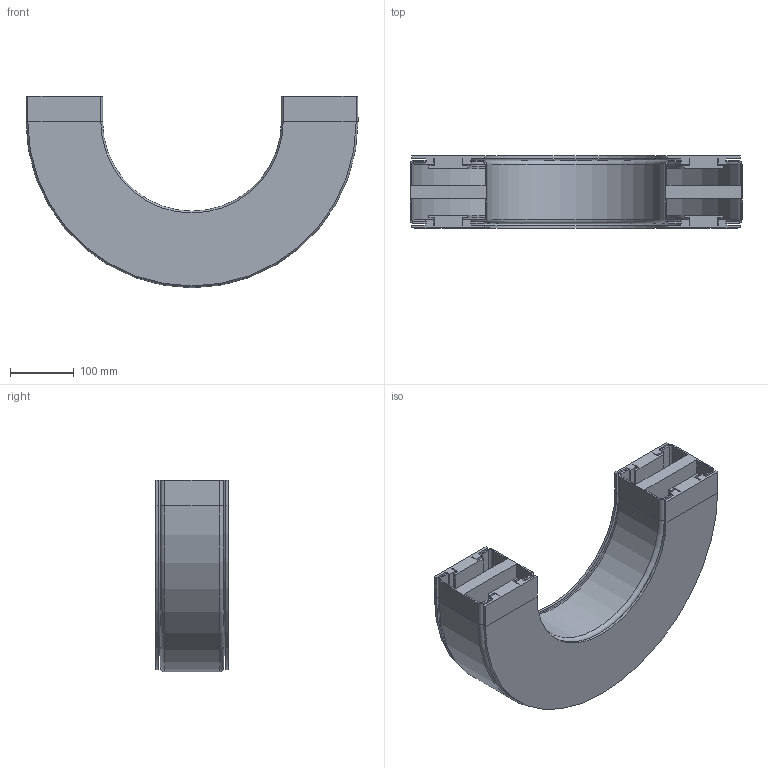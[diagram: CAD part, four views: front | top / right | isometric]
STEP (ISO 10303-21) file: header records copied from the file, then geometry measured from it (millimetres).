
FILE_DESCRIPTION (( 'STEP AP214' ), '1' );
FILE_NAME ('VC.120 Horizontale bochtsectie.R200 180.STEP', '2017-02-08T07:48:16', ( '' ), ( '' ), 'SwSTEP 2.0', 'SolidWorks 2016', '' );
FILE_SCHEMA (( 'AUTOMOTIVE_DESIGN' ));
Length unit declared in the file: millimetre
Products named in the file (1): VC.120 Horizontale bochtsectie.R200 180
Bounding box: 520 x 113 x 300 mm (x, y, z)
Volume: 4176338.2 mm3; surface area: 1021646.8 mm2
Topology: 1 solids, 1 shells, 210 faces, 488 edges, 280 vertices
Faces by surface type: plane 152, cylinder 38, cone 12, torus 8
Entity records: 5814 total; most frequent: DIRECTION 1018, CARTESIAN_POINT 979, ORIENTED_EDGE 976, EDGE_CURVE 488, LINE 380, VECTOR 380, AXIS2_PLACEMENT_3D 319, VERTEX_POINT 280
